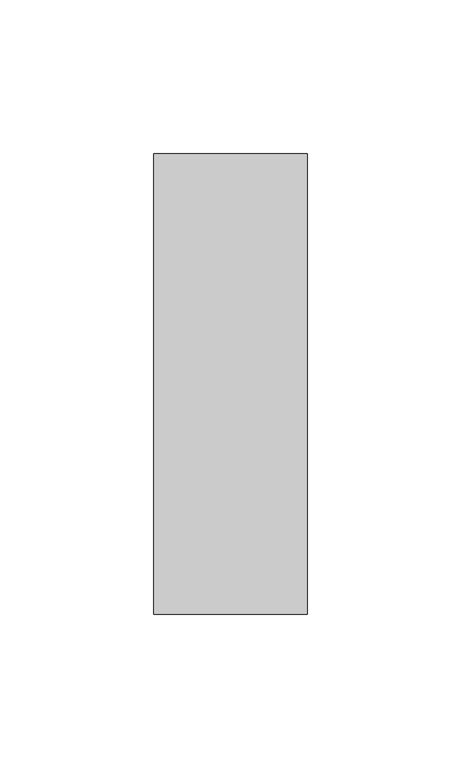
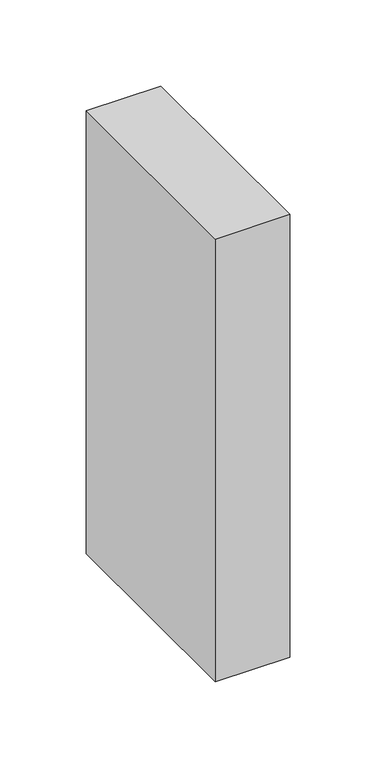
"""IFC4 building model written with IfcOpenShell, lengths in millimetres: member geometry, Прямоугольный импост : 50х150мм."""

from ifc_helpers import new_model, si_unit, frame, origin, place, context, project, spatial, polyline, outline, extrude, source, transform, mapped, element, save


def member_3edf8f76(model_context):
    return source(origin(), model_context, "Body", "SweptSolid", [
        extrude(outline(polyline([(25.0, 75.0), (25.0, -75.0), (-25.0, -75.0), (-25.0, 75.0), (25.0, 75.0)])), frame((0.0, 0.0, -314.007607), z_axis=(0.0, 0.0, 1.0), x_axis=(1.0, 0.0, 0.0)), (0.0, 0.0, 1.0), 314.007607),
    ])


if __name__ == "__main__":
    model = new_model("IFC4")
    model_context = context("Model", 3, world=origin())
    ifc_project = project(units=[si_unit("LENGTHUNIT", "METRE", prefix="MILLI")], contexts=[model_context])
    site = spatial("IfcSite", under=ifc_project)
    building = spatial("IfcBuilding", under=site)
    placement = place(None, origin())
    member_shape = member_3edf8f76(model_context)
    element("IfcMember", 1, ObjectType="Прямоугольный импост : 50х150мм", at=placement, inside=building, context=model_context, shape_type="MappedRepresentation", body=[
        mapped(member_shape, transform((0.0, 0.0, 0.0), x_axis=(1.0, 0.0, 0.0), y_axis=(0.0, 1.0, 0.0), z_axis=(0.0, 0.0, 1.0))),
    ])
    save(model, "model.ifc")
